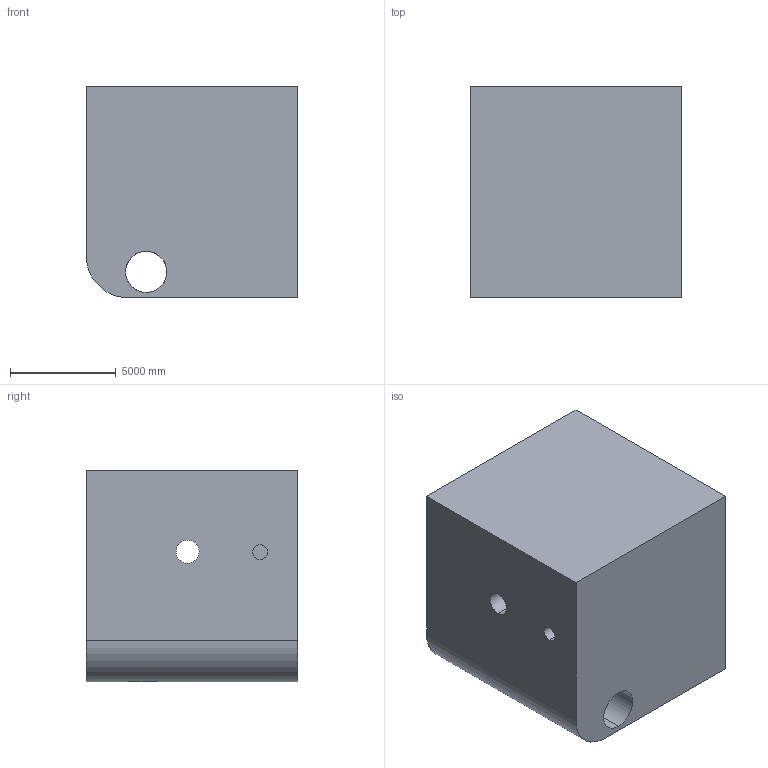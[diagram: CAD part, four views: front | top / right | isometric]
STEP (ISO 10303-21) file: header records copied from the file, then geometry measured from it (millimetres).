
FILE_DESCRIPTION (( 'STEP AP203' ), '1' );
FILE_NAME ('156.STEP', '2022-09-05T15:48:04', ( 'user' ), ( '' ), 'SwSTEP 2.0', 'SolidWorks 2021', '' );
FILE_SCHEMA (( 'CONFIG_CONTROL_DESIGN' ));
Length unit declared in the file: centimetre
Products named in the file (1): 156
Bounding box: 10000 x 10000 x 10000 mm (x, y, z)
Volume: 926690195613.9 mm3; surface area: 717978295.3 mm2
Topology: 1 solids, 1 shells, 22 faces, 54 edges, 36 vertices
Faces by surface type: cylinder 13, plane 9
Entity records: 1380 total; most frequent: CARTESIAN_POINT 756, DIRECTION 116, ORIENTED_EDGE 108, EDGE_CURVE 54, AXIS2_PLACEMENT_3D 45, VERTEX_POINT 36, EDGE_LOOP 30, VECTOR 26
